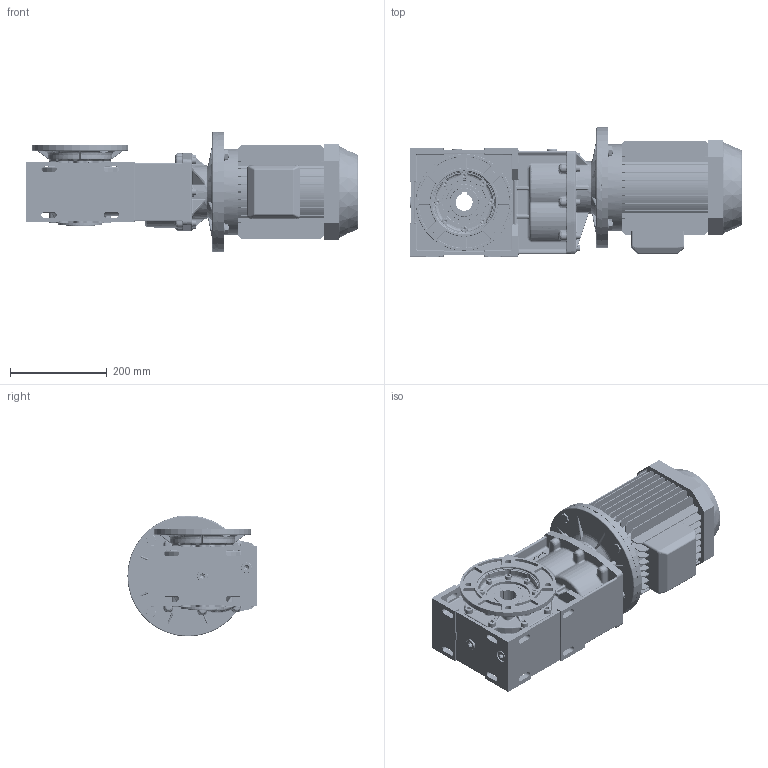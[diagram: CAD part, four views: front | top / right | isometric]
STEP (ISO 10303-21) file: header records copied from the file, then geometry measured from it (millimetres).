
FILE_DESCRIPTION((''),'2;1');
FILE_NAME('S:\Ghirri\3D\MO_RO30\Assiemi\MO30_2sFU-B5_100.stp','2006-02-01T16:59:49',('Stefano'),(''),'Autodesk Inventor 10','Autodesk Inventor 10','');
FILE_SCHEMA(('AUTOMOTIVE_DESIGN { 1 0 10303 214 1 1 1 1 }'));
Length unit declared in the file: millimetre
Products named in the file (21): MO30_2sFU-B5_100; Primario_MO30_2S; 3903001-A0; 3903002-A0; 3903003-A0; 3903009-A0; DIN 3760 AS AS - 60 x 75 x 8 - NBR; Guarnizione 3_8 GAS; Tappo 3_8 GAS_esagn_incsst; UNI 5931  M 10 x  25; UNI 5931  M 8 x  25; UNI 8839 A 8; motori B5 100; FM-90-110-D=250; UNI 5739  M12 x 30; UNI 5589  M12; UNI 6593 14 x 24; FU_MV75; UNI 5931  M 8 x  20
Assembly tree (66 placements, depth 3):
  MO30_2sFU-B5_100
    Primario_MO30_2S
      3903001-A0
      3903002-A0
      3903003-A0
      3903009-A0
      DIN 3760 AS AS - 60 x 75 x 8 - NBR  x2
      Guarnizione 3_8 GAS  x5
      Tappo 3_8 GAS_esagn_incsst  x5
      UNI 5931  M 10 x  25  x8
      UNI 5931  M 8 x  25  x8
      UNI 8839 A 8  x8
    motori B5 100
    FM-90-110-D=250
      FM-90-110-D=250
      UNI 5739  M12 x 30  x4
      UNI 5589  M12  x4
      UNI 6593 14 x 24  x4
    FU_MV75
      FU_MV75
      UNI 5931  M 8 x  20  x8
Bounding box: 687 x 267.2 x 250 mm (x, y, z)
Volume: 16103285.8 mm3; surface area: 1568617.4 mm2
Topology: 63 solids, 67 shells, 4478 faces, 11253 edges, 6953 vertices
Faces by surface type: plane 1630, cylinder 1244, bspline 1200, cone 255, torus 145, sphere 4
Full cylindrical faces by diameter (mm): 8 x18, 8.5 x8, 10 x8, 10.5 x8, 12 x4, 13 x20, 14 x4, 14.95 x1, 15 x4, 16 x8, 16.3 x5, 16.5 x5, 16.63 x4, 22 x10, 24 x4, 25 x1, 28 x1, 60 x2, 64.8 x2, 70 x1, 71 x2, 75 x4, 80 x2, 90 x3, 110 x2, 114.4 x1, 126 x1, 130 x1, 154.4 x1, 160 x3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
Entity records: 199208 total; most frequent: CARTESIAN_POINT 109322, ORIENTED_EDGE 19082, DIRECTION 18042, EDGE_CURVE 9541, AXIS2_PLACEMENT_3D 6888, VERTEX_POINT 6045, EDGE_LOOP 4362, VECTOR 4266
